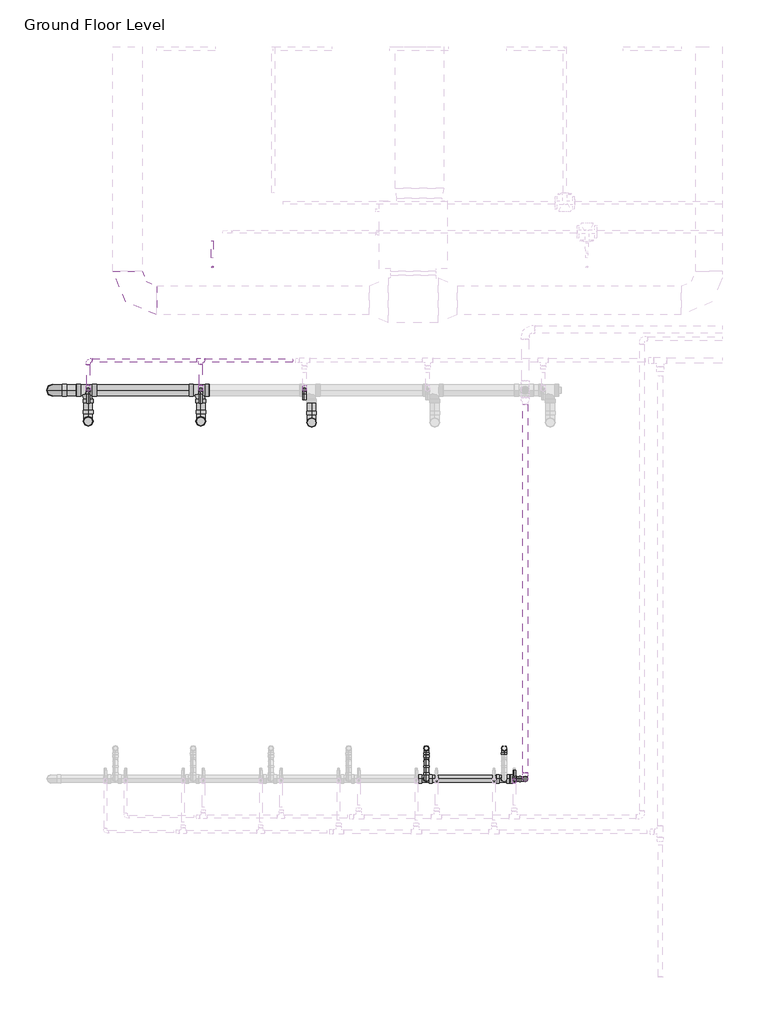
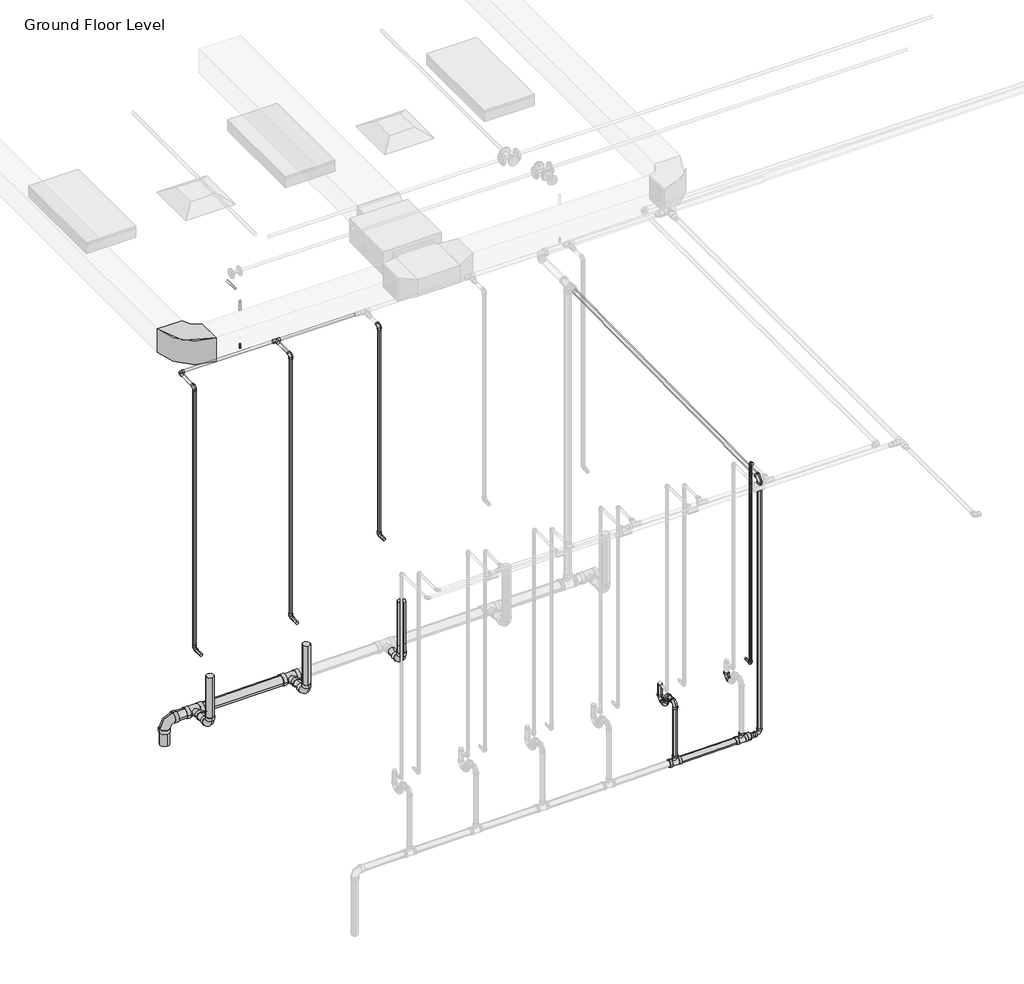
# One storey, part 41 of 68: 33 pipe segments, 26 pipe fittings, 1 duct fitting, 1 fire suppression terminal.
"""IFC4 building model written with IfcOpenShell, lengths in millimetres."""

from ifc_helpers import new_model, si_unit, point, frame, frame_2d, origin, place, context, project, spatial, circle_curve, trimmed, segment, composite_curve, outline, extrude, transform, mapped, element, save
from components import m_rectangular_elbow_radius_1_w_618da153, m_sprinkler_pendent_15_mm_pendent_06fcbd8e, m_bend_pvc_sch_40_dwv_standard_a4b99d37, m_bend_pvc_sch_40_dwv_standard_aa7efa4c, m_bend_pvc_sch_40_dwv_standard_1e7bdcc1, m_bend_pvc_sch_40_dwv_standard_776e50c4, m_reducer_pvc_sch_40_dwv_standard_d6f2da47, m_tee_reducing_sanitary_pvc_sch_40_dwv_standard_b49161a9, m_tee_reducing_sanitary_pvc_sch_40_dwv_standard_21d2848c, standard_b266ab3f, standard_517a5a8d, standard_ecb2b93d, standard_28db8dab, standard_72b35c3b

model = new_model("IFC4")

# Units and contexts
model_context = context("Model", 3, world=origin())
ifc_project = project(units=[si_unit("LENGTHUNIT", "METRE", prefix="MILLI")], contexts=[model_context])

# Site, building, storey
site = spatial("IfcSite", under=ifc_project)
building = spatial("IfcBuilding", under=site)
storey = spatial("IfcBuildingStorey", under=building, Name="Ground Floor Level", Elevation=900.0)

# Duct fitting
placement = place(None, origin())
m_rectangular_elbow_radius_1_w_shape = m_rectangular_elbow_radius_1_w_618da153(model_context)
element("IfcDuctFitting", 1, ObjectType="M_Rectangular Elbow - Radius : 1 W", at=placement, inside=storey, context=model_context, shape_type="MappedRepresentation", body=[
    mapped(m_rectangular_elbow_radius_1_w_shape, transform((-20937.2327605, 14069.8153534, 4075.2881511), x_axis=(0.0, -1.0, 0.0), y_axis=(1.0, 0.0, 0.0), z_axis=(0.0, 0.0, 1.0))),
])

# Fire suppression terminal
m_sprinkler_pendent_15_mm_pendent_shape = m_sprinkler_pendent_15_mm_pendent_06fcbd8e(model_context)
element("IfcFireSuppressionTerminal", 2, ObjectType="M_Sprinkler - Pendent : 15 mm Pendent", at=placement, inside=storey, context=model_context, shape_type="MappedRepresentation", body=[
    mapped(m_sprinkler_pendent_15_mm_pendent_shape, transform((-20063.6803933, 14412.7243649, 3650.0), x_axis=(1.0, 0.0, 0.0), y_axis=(0.0, 1.0, 0.0), z_axis=(0.0, 0.0, 1.0))),
])

# Pipe fittings
m_bend_pvc_sch_40_dwv_standard_shape = m_bend_pvc_sch_40_dwv_standard_a4b99d37(model_context)
element("IfcPipeFitting", 3, ObjectType="M_Bend - PVC - Sch 40 - DWV : Standard", at=placement, inside=storey, context=model_context, shape_type="MappedRepresentation", body=[
    mapped(m_bend_pvc_sch_40_dwv_standard_shape, transform((-21343.0428538, 12823.8178806, 203.6352174), x_axis=(0.0, 0.0, -1.0), y_axis=(0.0, 1.0, 0.0), z_axis=(1.0, 0.0, 0.0))),
])
element("IfcPipeFitting", 4, ObjectType="M_Bend - PVC - Sch 40 - DWV : Standard", at=placement, inside=storey, context=model_context, shape_type="MappedRepresentation", body=[
    mapped(m_bend_pvc_sch_40_dwv_standard_shape, transform((-20183.0428538, 12823.8178806, 215.2352174), x_axis=(0.0, 0.0, -1.0), y_axis=(0.0, 1.0, 0.0), z_axis=(1.0, 0.0, 0.0))),
])
element("IfcPipeFitting", 5, ObjectType="M_Bend - PVC - Sch 40 - DWV : Standard", at=placement, inside=storey, context=model_context, shape_type="MappedRepresentation", body=[
    mapped(m_bend_pvc_sch_40_dwv_standard_shape, transform((-19043.0428538, 12811.6726561, 226.6352174), x_axis=(0.0, 0.0, -1.0), y_axis=(0.0, 1.0, 0.0), z_axis=(1.0, 0.0, 0.0))),
])
m_bend_pvc_sch_40_dwv_standard_2_shape = m_bend_pvc_sch_40_dwv_standard_aa7efa4c(model_context)
element("IfcPipeFitting", 6, ObjectType="M_Bend - PVC - Sch 40 - DWV : Standard", at=placement, inside=storey, context=model_context, shape_type="MappedRepresentation", body=[
    mapped(m_bend_pvc_sch_40_dwv_standard_2_shape, transform((-21707.2327605, 13143.7240477, 200.1933183), x_axis=(0.0, 0.0, 1.0), y_axis=(1.0, 0.0, 0.0), z_axis=(0.0, 1.0, 0.0))),
])
m_bend_pvc_sch_40_dwv_standard_3_shape = m_bend_pvc_sch_40_dwv_standard_1e7bdcc1(model_context)
element("IfcPipeFitting", 7, ObjectType="M_Bend - PVC - Sch 40 - DWV : Standard", at=placement, inside=storey, context=model_context, shape_type="MappedRepresentation", body=[
    mapped(m_bend_pvc_sch_40_dwv_standard_3_shape, transform((-17061.2502, 9458.7835646, 1360.0), x_axis=(0.0, 0.9999500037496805, 0.009999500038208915), y_axis=(0.0, -0.009999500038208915, 0.9999500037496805), z_axis=(1.0, 0.0, 0.0))),
])
element("IfcPipeFitting", 8, ObjectType="M_Bend - PVC - Sch 40 - DWV : Standard", at=placement, inside=storey, context=model_context, shape_type="MappedRepresentation", body=[
    mapped(m_bend_pvc_sch_40_dwv_standard_3_shape, transform((-17861.2502, 9458.7835646, 1360.0), x_axis=(0.0, 0.9999500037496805, 0.009999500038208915), y_axis=(0.0, -0.009999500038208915, 0.9999500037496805), z_axis=(1.0, 0.0, 0.0))),
])
element("IfcPipeFitting", 9, ObjectType="M_Bend - PVC - Sch 40 - DWV : Standard", at=placement, inside=storey, context=model_context, shape_type="MappedRepresentation", body=[
    mapped(m_bend_pvc_sch_40_dwv_standard_3_shape, transform((-17861.2502, 9143.7835646, 1498.2), x_axis=(0.0, -0.9999500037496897, -0.00999950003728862), y_axis=(0.0, 0.00999950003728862, -0.9999500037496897), z_axis=(1.0, 0.0, 0.0))),
])
element("IfcPipeFitting", 10, ObjectType="M_Bend - PVC - Sch 40 - DWV : Standard", at=placement, inside=storey, context=model_context, shape_type="MappedRepresentation", body=[
    mapped(m_bend_pvc_sch_40_dwv_standard_3_shape, transform((-16844.392952, 9143.7835646, 761.4231627), x_axis=(0.9999500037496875, 0.0, 0.009999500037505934), y_axis=(-0.009999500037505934, 0.0, 0.9999500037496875), z_axis=(0.0, -1.0, 0.0))),
])
element("IfcPipeFitting", 11, ObjectType="M_Bend - PVC - Sch 40 - DWV : Standard", at=placement, inside=storey, context=model_context, shape_type="MappedRepresentation", body=[
    mapped(m_bend_pvc_sch_40_dwv_standard_3_shape, transform((-16844.3158637, 9143.8485583, 4010.8006231), x_axis=(0.0, 0.0, 1.0), y_axis=(0.0, 1.0, 0.0), z_axis=(-1.0, 0.0, 0.0))),
])
m_bend_pvc_sch_40_dwv_standard_4_shape = m_bend_pvc_sch_40_dwv_standard_776e50c4(model_context)
element("IfcPipeFitting", 12, ObjectType="M_Bend - PVC - Sch 40 - DWV : Standard", at=placement, inside=storey, context=model_context, shape_type="MappedRepresentation", body=[
    mapped(m_bend_pvc_sch_40_dwv_standard_4_shape, transform((-17861.2502, 9323.7835646, 1358.65), x_axis=(0.0, -0.9999500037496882, -0.009999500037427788), y_axis=(0.0, -0.009999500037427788, 0.9999500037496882), z_axis=(-1.0, 0.0, 0.0))),
])
element("IfcPipeFitting", 13, ObjectType="M_Bend - PVC - Sch 40 - DWV : Standard", at=placement, inside=storey, context=model_context, shape_type="MappedRepresentation", body=[
    mapped(m_bend_pvc_sch_40_dwv_standard_4_shape, transform((-17861.2502, 9323.7835646, 1500.0), x_axis=(0.0, 0.0, 1.0), y_axis=(0.0, -1.0, 0.0), z_axis=(1.0, 0.0, 0.0))),
])
m_reducer_pvc_sch_40_dwv_standard_shape = m_reducer_pvc_sch_40_dwv_standard_d6f2da47(model_context)
element("IfcPipeFitting", 14, ObjectType="M_Reducer - PVC - Sch 40 - DWV : Standard", at=placement, inside=storey, context=model_context, shape_type="MappedRepresentation", body=[
    mapped(m_reducer_pvc_sch_40_dwv_standard_shape, transform((-16997.2385884, 9143.7835646, 759.8947064), x_axis=(0.999950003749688, 0.0, 0.009999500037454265), y_axis=(0.0, 1.0000000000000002, 0.0), z_axis=(-0.009999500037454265, 0.0, 0.999950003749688))),
])
m_tee_reducing_sanitary_pvc_sch_40_dwv_standard_shape = m_tee_reducing_sanitary_pvc_sch_40_dwv_standard_b49161a9(model_context)
element("IfcPipeFitting", 15, ObjectType="M_Tee Reducing Sanitary - PVC - Sch 40 - DWV : Standard", at=placement, inside=storey, context=model_context, shape_type="MappedRepresentation", body=[
    mapped(m_tee_reducing_sanitary_pvc_sch_40_dwv_standard_shape, transform((-21343.0428538, 13143.7240477, 203.6352174), x_axis=(0.9999500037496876, 0.0, 0.009999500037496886), y_axis=(0.0, 1.0, 0.0), z_axis=(-0.009999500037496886, 0.0, 0.9999500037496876))),
])
element("IfcPipeFitting", 16, ObjectType="M_Tee Reducing Sanitary - PVC - Sch 40 - DWV : Standard", at=placement, inside=storey, context=model_context, shape_type="MappedRepresentation", body=[
    mapped(m_tee_reducing_sanitary_pvc_sch_40_dwv_standard_shape, transform((-20183.0428538, 13143.7240477, 215.2352174), x_axis=(0.9999500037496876, 0.0, 0.009999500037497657), y_axis=(0.0, 1.0, 0.0), z_axis=(-0.009999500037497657, 0.0, 0.9999500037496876))),
])
m_tee_reducing_sanitary_pvc_sch_40_dwv_standard_2_shape = m_tee_reducing_sanitary_pvc_sch_40_dwv_standard_21d2848c(model_context)
element("IfcPipeFitting", 17, ObjectType="M_Tee Reducing Sanitary - PVC - Sch 40 - DWV : Standard", at=placement, inside=storey, context=model_context, shape_type="MappedRepresentation", body=[
    mapped(m_tee_reducing_sanitary_pvc_sch_40_dwv_standard_2_shape, transform((-17061.2502, 9143.7835646, 759.2441999), x_axis=(0.9999500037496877, 0.0, 0.009999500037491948), y_axis=(0.009999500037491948, 0.0, -0.9999500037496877), z_axis=(0.0, 1.0, 0.0))),
])
element("IfcPipeFitting", 18, ObjectType="M_Tee Reducing Sanitary - PVC - Sch 40 - DWV : Standard", at=placement, inside=storey, context=model_context, shape_type="MappedRepresentation", body=[
    mapped(m_tee_reducing_sanitary_pvc_sch_40_dwv_standard_2_shape, transform((-17861.2502, 9143.7835646, 751.2441999), x_axis=(0.9999500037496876, 0.0, 0.00999950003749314), y_axis=(0.00999950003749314, 0.0, -0.9999500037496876), z_axis=(0.0, 1.0, 0.0))),
])
standard_shape = standard_b266ab3f(model_context)
element("IfcPipeFitting", 19, ObjectType="M_Elbow - CPVC - Sch 40 : Standard", at=placement, inside=storey, context=model_context, shape_type="MappedRepresentation", body=[
    mapped(standard_shape, transform((-16956.7923674, 9135.2153534, 4250.0), x_axis=(0.0, 0.0, 1.0), y_axis=(0.0, -1.0, 0.0), z_axis=(1.0, 0.0, 0.0))),
])
element("IfcPipeFitting", 20, ObjectType="M_Elbow - CPVC - Sch 40 : Standard", at=placement, inside=storey, context=model_context, shape_type="MappedRepresentation", body=[
    mapped(standard_shape, transform((-16956.7923674, 9135.2153534, 1690.0), x_axis=(0.0, 0.0, -1.0), y_axis=(-0.00142911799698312, 0.9999989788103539, 0.0), z_axis=(0.9999989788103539, 0.00142911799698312, 0.0))),
])
standard_2_shape = standard_517a5a8d(model_context)
element("IfcPipeFitting", 21, ObjectType="M_Elbow - CPVC - Sch 40 : Standard", at=placement, inside=storey, context=model_context, shape_type="MappedRepresentation", body=[
    mapped(standard_2_shape, transform((-21343.0428538, 13149.9865561, 4315.0), x_axis=(0.0, 0.0, 1.0), y_axis=(0.0, 1.0, 0.0), z_axis=(-1.0, 0.0, 0.0))),
])
element("IfcPipeFitting", 22, ObjectType="M_Elbow - CPVC - Sch 40 : Standard", at=placement, inside=storey, context=model_context, shape_type="MappedRepresentation", body=[
    mapped(standard_2_shape, transform((-20183.0428538, 13149.9865561, 4315.0), x_axis=(0.0, 0.0, 1.0), y_axis=(0.0, 1.0, 0.0), z_axis=(-1.0, 0.0, 0.0))),
])
element("IfcPipeFitting", 23, ObjectType="M_Elbow - CPVC - Sch 40 : Standard", at=placement, inside=storey, context=model_context, shape_type="MappedRepresentation", body=[
    mapped(standard_2_shape, transform((-19116.48162, 13149.9865561, 1655.0), x_axis=(0.0, 1.0, 0.0), y_axis=(0.0, 0.0, 1.0), z_axis=(1.0, 0.0, 0.0))),
])
element("IfcPipeFitting", 24, ObjectType="M_Elbow - CPVC - Sch 40 : Standard", at=placement, inside=storey, context=model_context, shape_type="MappedRepresentation", body=[
    mapped(standard_2_shape, transform((-19116.48162, 13149.9865561, 4315.0), x_axis=(0.0, 0.0, 1.0), y_axis=(0.0, 1.0, 0.0), z_axis=(-1.0, 0.0, 0.0))),
])
element("IfcPipeFitting", 25, ObjectType="M_Elbow - CPVC - Sch 40 : Standard", at=placement, inside=storey, context=model_context, shape_type="MappedRepresentation", body=[
    mapped(standard_2_shape, transform((-21343.0428538, 13449.9865561, 4315.0), x_axis=(-1.0, 0.0, 0.0), y_axis=(0.0, -1.0, 0.0), z_axis=(0.0, 0.0, 1.0))),
])
standard_3_shape = standard_ecb2b93d(model_context)
element("IfcPipeFitting", 26, ObjectType="M_Elbow - CPVC - Sch 40 : Standard", at=placement, inside=storey, context=model_context, shape_type="MappedRepresentation", body=[
    mapped(standard_3_shape, transform((-21343.0428538, 13149.9865561, 983.5000035), x_axis=(0.0, 0.9999999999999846, 1.7577295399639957e-07), y_axis=(0.0, -1.7577295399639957e-07, 0.9999999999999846), z_axis=(1.0, 0.0, 0.0))),
])
standard_4_shape = standard_28db8dab(model_context)
element("IfcPipeFitting", 27, ObjectType="M_Elbow - CPVC - Sch 40 : Standard", at=placement, inside=storey, context=model_context, shape_type="MappedRepresentation", body=[
    mapped(standard_4_shape, transform((-20183.0428538, 13149.9865561, 983.4999984), x_axis=(0.0, 0.0, -1.0), y_axis=(0.0, -1.0, 0.0), z_axis=(-1.0, 0.0, 0.0))),
])
standard_5_shape = standard_72b35c3b(model_context)
element("IfcPipeFitting", 28, ObjectType="M_Tee - CPVC - Sch 40 : Standard", at=placement, inside=storey, context=model_context, shape_type="MappedRepresentation", body=[
    mapped(standard_5_shape, transform((-20183.0428538, 13449.9865561, 4315.0), x_axis=(-1.0, 0.0, 0.0), y_axis=(0.0, 1.0, 0.0), z_axis=(0.0, 0.0, -1.0))),
])

# Pipe segments
element("IfcPipeSegment", 29, ObjectType="CPVC", at=placement, inside=storey, context=model_context, shape_type="SweptSolid", body=[
    extrude(outline(composite_curve([segment(trimmed(circle_curve(frame_2d((0.0, 13.335)), 13.335), [point((0.0, 26.67))], [point((13.335, 13.335))], False, "CARTESIAN"), True, "CONTINUOUS"), segment(trimmed(circle_curve(frame_2d((0.0, 13.335)), 13.335), [point((13.335, 13.335))], [point((0.0, 0.0))], False, "CARTESIAN"), True, "CONTINUOUS"), segment(trimmed(circle_curve(frame_2d((0.0, 13.335)), 13.335), [point((0.0, 0.0))], [point((-13.335, 13.335))], False, "CARTESIAN"), True, "CONTINUOUS"), segment(trimmed(circle_curve(frame_2d((0.0, 13.335)), 13.335), [point((-13.335, 13.335))], [point((0.0, 26.67))], False, "CARTESIAN"), True, "CONTINUOUS")], self_intersect=False)), frame((-16970.1778375, 9170.52131, 1690.0), z_axis=(-0.0014291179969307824, 0.999998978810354, 0.0), x_axis=(0.0, 0.0, 1.0)), (0.0, 0.0, 1.0), 64.6750521),
])
element("IfcPipeSegment", 30, ObjectType="CPVC", at=placement, inside=storey, context=model_context, shape_type="SweptSolid", body=[
    extrude(outline(composite_curve([segment(trimmed(circle_curve(frame_2d((-16956.7923674, 9135.2153534)), 13.335), [point((-16970.1273674, 9135.2153534))], [point((-16956.7923674, 9148.5503534))], False, "CARTESIAN"), True, "CONTINUOUS"), segment(trimmed(circle_curve(frame_2d((-16956.7923674, 9135.2153534)), 13.335), [point((-16956.7923674, 9148.5503534))], [point((-16943.4573674, 9135.2153534))], False, "CARTESIAN"), True, "CONTINUOUS"), segment(trimmed(circle_curve(frame_2d((-16956.7923674, 9135.2153534)), 13.335), [point((-16943.4573674, 9135.2153534))], [point((-16956.7923674, 9121.8803534))], False, "CARTESIAN"), True, "CONTINUOUS"), segment(trimmed(circle_curve(frame_2d((-16956.7923674, 9135.2153534)), 13.335), [point((-16956.7923674, 9121.8803534))], [point((-16970.1273674, 9135.2153534))], False, "CARTESIAN"), True, "CONTINUOUS")], self_intersect=False)), frame((0.0, 0.0, 1725.32505), z_axis=(0.0, 0.0, 1.0), x_axis=(1.0, 0.0, 0.0)), (0.0, 0.0, 1.0), 2489.3499),
])
element("IfcPipeSegment", 31, ObjectType="CPVC", at=placement, inside=storey, context=model_context, shape_type="SweptSolid", body=[
    extrude(outline(composite_curve([segment(trimmed(circle_curve(frame_2d((983.4999789, -21343.0428538)), 16.7005), [point((983.4999789, -21326.3423538))], [point((1000.2004789, -21343.0428538))], False, "CARTESIAN"), True, "CONTINUOUS"), segment(trimmed(circle_curve(frame_2d((983.4999789, -21343.0428538)), 16.7005), [point((1000.2004789, -21343.0428538))], [point((983.4999789, -21359.7433538))], False, "CARTESIAN"), True, "CONTINUOUS"), segment(trimmed(circle_curve(frame_2d((983.4999789, -21343.0428538)), 16.7005), [point((983.4999789, -21359.7433538))], [point((966.7994789, -21343.0428538))], False, "CARTESIAN"), True, "CONTINUOUS"), segment(trimmed(circle_curve(frame_2d((983.4999789, -21343.0428538)), 16.7005), [point((966.7994789, -21343.0428538))], [point((983.4999789, -21326.3423538))], False, "CARTESIAN"), True, "CONTINUOUS")], self_intersect=False)), frame((0.0, 13009.9865561, 0.0), z_axis=(0.0, 1.0, 0.0), x_axis=(0.0, 0.0, 1.0)), (0.0, 0.0, 1.0), 96.7374537),
])
element("IfcPipeSegment", 32, ObjectType="CPVC", at=placement, inside=storey, context=model_context, shape_type="SweptSolid", body=[
    extrude(outline(composite_curve([segment(trimmed(circle_curve(frame_2d((4315.0, -21343.0428538)), 16.7005), [point((4315.0, -21326.3423538))], [point((4331.7005, -21343.0428538))], False, "CARTESIAN"), True, "CONTINUOUS"), segment(trimmed(circle_curve(frame_2d((4315.0, -21343.0428538)), 16.7005), [point((4331.7005, -21343.0428538))], [point((4315.0, -21359.7433538))], False, "CARTESIAN"), True, "CONTINUOUS"), segment(trimmed(circle_curve(frame_2d((4315.0, -21343.0428538)), 16.7005), [point((4315.0, -21359.7433538))], [point((4298.2995, -21343.0428538))], False, "CARTESIAN"), True, "CONTINUOUS"), segment(trimmed(circle_curve(frame_2d((4315.0, -21343.0428538)), 16.7005), [point((4298.2995, -21343.0428538))], [point((4315.0, -21326.3423538))], False, "CARTESIAN"), True, "CONTINUOUS")], self_intersect=False)), frame((0.0, 13193.2491061, 0.0), z_axis=(0.0, 1.0, 0.0), x_axis=(0.0, 0.0, 1.0)), (0.0, 0.0, 1.0), 213.4749),
])
element("IfcPipeSegment", 33, ObjectType="CPVC", at=placement, inside=storey, context=model_context, shape_type="SweptSolid", body=[
    extrude(outline(composite_curve([segment(trimmed(circle_curve(frame_2d((-21343.0428538, 13149.9865561)), 16.7005), [point((-21359.7433538, 13149.9865561))], [point((-21343.0428538, 13166.6870561))], False, "CARTESIAN"), True, "CONTINUOUS"), segment(trimmed(circle_curve(frame_2d((-21343.0428538, 13149.9865561)), 16.7005), [point((-21343.0428538, 13166.6870561))], [point((-21326.3423538, 13149.9865561))], False, "CARTESIAN"), True, "CONTINUOUS"), segment(trimmed(circle_curve(frame_2d((-21343.0428538, 13149.9865561)), 16.7005), [point((-21326.3423538, 13149.9865561))], [point((-21343.0428538, 13133.2860561))], False, "CARTESIAN"), True, "CONTINUOUS"), segment(trimmed(circle_curve(frame_2d((-21343.0428538, 13149.9865561)), 16.7005), [point((-21343.0428538, 13133.2860561))], [point((-21359.7433538, 13149.9865561))], False, "CARTESIAN"), True, "CONTINUOUS")], self_intersect=False)), frame((0.0, 0.0, 1026.7625498), z_axis=(0.0, 0.0, 1.0), x_axis=(1.0, 0.0, 0.0)), (0.0, 0.0, 1.0), 3244.9749002),
])
element("IfcPipeSegment", 34, ObjectType="CPVC", at=placement, inside=storey, context=model_context, shape_type="SweptSolid", body=[
    extrude(outline(composite_curve([segment(trimmed(circle_curve(frame_2d((983.4999924, -20183.0428538)), 16.7005), [point((983.4999924, -20199.7433538))], [point((966.7994924, -20183.0428538))], False, "CARTESIAN"), True, "CONTINUOUS"), segment(trimmed(circle_curve(frame_2d((983.4999924, -20183.0428538)), 16.7005), [point((966.7994924, -20183.0428538))], [point((983.4999924, -20166.3423538))], False, "CARTESIAN"), True, "CONTINUOUS"), segment(trimmed(circle_curve(frame_2d((983.4999924, -20183.0428538)), 16.7005), [point((983.4999924, -20166.3423538))], [point((1000.2004924, -20183.0428538))], False, "CARTESIAN"), True, "CONTINUOUS"), segment(trimmed(circle_curve(frame_2d((983.4999924, -20183.0428538)), 16.7005), [point((1000.2004924, -20183.0428538))], [point((983.4999924, -20199.7433538))], False, "CARTESIAN"), True, "CONTINUOUS")], self_intersect=False)), frame((0.0, 13009.9865561, 0.0), z_axis=(0.0, 1.0, 0.0), x_axis=(0.0, 0.0, 1.0)), (0.0, 0.0, 1.0), 96.7374529),
])
element("IfcPipeSegment", 35, ObjectType="CPVC", at=placement, inside=storey, context=model_context, shape_type="SweptSolid", body=[
    extrude(outline(composite_curve([segment(trimmed(circle_curve(frame_2d((-20183.0428538, 13149.9865561)), 16.7005), [point((-20199.7433538, 13149.9865561))], [point((-20183.0428538, 13166.6870561))], False, "CARTESIAN"), True, "CONTINUOUS"), segment(trimmed(circle_curve(frame_2d((-20183.0428538, 13149.9865561)), 16.7005), [point((-20183.0428538, 13166.6870561))], [point((-20166.3423538, 13149.9865561))], False, "CARTESIAN"), True, "CONTINUOUS"), segment(trimmed(circle_curve(frame_2d((-20183.0428538, 13149.9865561)), 16.7005), [point((-20166.3423538, 13149.9865561))], [point((-20183.0428538, 13133.2860561))], False, "CARTESIAN"), True, "CONTINUOUS"), segment(trimmed(circle_curve(frame_2d((-20183.0428538, 13149.9865561)), 16.7005), [point((-20183.0428538, 13133.2860561))], [point((-20199.7433538, 13149.9865561))], False, "CARTESIAN"), True, "CONTINUOUS")], self_intersect=False)), frame((0.0, 0.0, 1026.7625455), z_axis=(0.0, 0.0, 1.0), x_axis=(1.0, 0.0, 0.0)), (0.0, 0.0, 1.0), 3244.9749045),
])
element("IfcPipeSegment", 36, ObjectType="CPVC", at=placement, inside=storey, context=model_context, shape_type="SweptSolid", body=[
    extrude(outline(composite_curve([segment(trimmed(circle_curve(frame_2d((1655.0, -19116.48162)), 16.7005), [point((1655.0, -19099.78112))], [point((1671.7005, -19116.48162))], False, "CARTESIAN"), True, "CONTINUOUS"), segment(trimmed(circle_curve(frame_2d((1655.0, -19116.48162)), 16.7005), [point((1671.7005, -19116.48162))], [point((1655.0, -19133.18212))], False, "CARTESIAN"), True, "CONTINUOUS"), segment(trimmed(circle_curve(frame_2d((1655.0, -19116.48162)), 16.7005), [point((1655.0, -19133.18212))], [point((1638.2995, -19116.48162))], False, "CARTESIAN"), True, "CONTINUOUS"), segment(trimmed(circle_curve(frame_2d((1655.0, -19116.48162)), 16.7005), [point((1638.2995, -19116.48162))], [point((1655.0, -19099.78112))], False, "CARTESIAN"), True, "CONTINUOUS")], self_intersect=False)), frame((0.0, 13045.2153534, 0.0), z_axis=(0.0, 1.0, 0.0), x_axis=(0.0, 0.0, 1.0)), (0.0, 0.0, 1.0), 61.5086528),
])
element("IfcPipeSegment", 37, ObjectType="CPVC", at=placement, inside=storey, context=model_context, shape_type="SweptSolid", body=[
    extrude(outline(composite_curve([segment(trimmed(circle_curve(frame_2d((-19116.48162, 13149.9865561)), 16.7005), [point((-19133.18212, 13149.9865561))], [point((-19116.48162, 13166.6870561))], False, "CARTESIAN"), True, "CONTINUOUS"), segment(trimmed(circle_curve(frame_2d((-19116.48162, 13149.9865561)), 16.7005), [point((-19116.48162, 13166.6870561))], [point((-19099.78112, 13149.9865561))], False, "CARTESIAN"), True, "CONTINUOUS"), segment(trimmed(circle_curve(frame_2d((-19116.48162, 13149.9865561)), 16.7005), [point((-19099.78112, 13149.9865561))], [point((-19116.48162, 13133.2860561))], False, "CARTESIAN"), True, "CONTINUOUS"), segment(trimmed(circle_curve(frame_2d((-19116.48162, 13149.9865561)), 16.7005), [point((-19116.48162, 13133.2860561))], [point((-19133.18212, 13149.9865561))], False, "CARTESIAN"), True, "CONTINUOUS")], self_intersect=False)), frame((0.0, 0.0, 1698.26255), z_axis=(0.0, 0.0, 1.0), x_axis=(1.0, 0.0, 0.0)), (0.0, 0.0, 1.0), 2573.4749),
])
element("IfcPipeSegment", 38, ObjectType="CPVC", at=placement, inside=storey, context=model_context, shape_type="SweptSolid", body=[
    extrude(outline(composite_curve([segment(trimmed(circle_curve(frame_2d((13449.9865561, 4315.0)), 16.7005), [point((13433.2860561, 4315.0))], [point((13449.9865561, 4331.7005))], False, "CARTESIAN"), True, "CONTINUOUS"), segment(trimmed(circle_curve(frame_2d((13449.9865561, 4315.0)), 16.7005), [point((13449.9865561, 4331.7005))], [point((13466.6870561, 4315.0))], False, "CARTESIAN"), True, "CONTINUOUS"), segment(trimmed(circle_curve(frame_2d((13449.9865561, 4315.0)), 16.7005), [point((13466.6870561, 4315.0))], [point((13449.9865561, 4298.2995))], False, "CARTESIAN"), True, "CONTINUOUS"), segment(trimmed(circle_curve(frame_2d((13449.9865561, 4315.0)), 16.7005), [point((13449.9865561, 4298.2995))], [point((13433.2860561, 4315.0))], False, "CARTESIAN"), True, "CONTINUOUS")], self_intersect=False)), frame((-21299.7803038, 0.0, 0.0), z_axis=(1.0, 0.0, 0.0), x_axis=(0.0, 1.0, 0.0)), (0.0, 0.0, 1.0), 1077.03725),
])
element("IfcPipeSegment", 39, ObjectType="CPVC", at=placement, inside=storey, context=model_context, shape_type="SweptSolid", body=[
    extrude(outline(composite_curve([segment(trimmed(circle_curve(frame_2d((4315.0, -20183.0428538)), 16.7005), [point((4315.0, -20166.3423538))], [point((4331.7005, -20183.0428538))], False, "CARTESIAN"), True, "CONTINUOUS"), segment(trimmed(circle_curve(frame_2d((4315.0, -20183.0428538)), 16.7005), [point((4331.7005, -20183.0428538))], [point((4315.0, -20199.7433538))], False, "CARTESIAN"), True, "CONTINUOUS"), segment(trimmed(circle_curve(frame_2d((4315.0, -20183.0428538)), 16.7005), [point((4315.0, -20199.7433538))], [point((4298.2995, -20183.0428538))], False, "CARTESIAN"), True, "CONTINUOUS"), segment(trimmed(circle_curve(frame_2d((4315.0, -20183.0428538)), 16.7005), [point((4298.2995, -20183.0428538))], [point((4315.0, -20166.3423538))], False, "CARTESIAN"), True, "CONTINUOUS")], self_intersect=False)), frame((0.0, 13193.2491061, 0.0), z_axis=(0.0, 1.0, 0.0), x_axis=(0.0, 0.0, 1.0)), (0.0, 0.0, 1.0), 217.03725),
])
element("IfcPipeSegment", 40, ObjectType="CPVC", at=placement, inside=storey, context=model_context, shape_type="SweptSolid", body=[
    extrude(outline(composite_curve([segment(trimmed(circle_curve(frame_2d((13449.9865561, 4315.0)), 16.7005), [point((13433.2860561, 4315.0))], [point((13449.9865561, 4331.7005))], False, "CARTESIAN"), True, "CONTINUOUS"), segment(trimmed(circle_curve(frame_2d((13449.9865561, 4315.0)), 16.7005), [point((13449.9865561, 4331.7005))], [point((13466.6870561, 4315.0))], False, "CARTESIAN"), True, "CONTINUOUS"), segment(trimmed(circle_curve(frame_2d((13449.9865561, 4315.0)), 16.7005), [point((13466.6870561, 4315.0))], [point((13449.9865561, 4298.2995))], False, "CARTESIAN"), True, "CONTINUOUS"), segment(trimmed(circle_curve(frame_2d((13449.9865561, 4315.0)), 16.7005), [point((13449.9865561, 4298.2995))], [point((13433.2860561, 4315.0))], False, "CARTESIAN"), True, "CONTINUOUS")], self_intersect=False)), frame((-20143.3426538, 0.0, 0.0), z_axis=(1.0, 0.0, 0.0), x_axis=(0.0, 1.0, 0.0)), (0.0, 0.0, 1.0), 906.7671588),
])
element("IfcPipeSegment", 41, ObjectType="PVC - DWV", at=placement, inside=storey, context=model_context, shape_type="SweptSolid", body=[
    extrude(outline(composite_curve([segment(trimmed(circle_curve(frame_2d((-21343.0428538, 12823.8178806)), 44.45), [point((-21298.5928538, 12823.8178806))], [point((-21343.0428538, 12779.3678806))], False, "CARTESIAN"), True, "CONTINUOUS"), segment(trimmed(circle_curve(frame_2d((-21343.0428538, 12823.8178806)), 44.45), [point((-21343.0428538, 12779.3678806))], [point((-21387.4928538, 12823.8178806))], False, "CARTESIAN"), True, "CONTINUOUS"), segment(trimmed(circle_curve(frame_2d((-21343.0428538, 12823.8178806)), 44.45), [point((-21387.4928538, 12823.8178806))], [point((-21343.0428538, 12868.2678806))], False, "CARTESIAN"), True, "CONTINUOUS"), segment(trimmed(circle_curve(frame_2d((-21343.0428538, 12823.8178806)), 44.45), [point((-21343.0428538, 12868.2678806))], [point((-21298.5928538, 12823.8178806))], False, "CARTESIAN"), True, "CONTINUOUS")], self_intersect=False)), frame((0.0, 0.0, 319.5354174), z_axis=(0.0, 0.0, 1.0), x_axis=(1.0, 0.0, 0.0)), (0.0, 0.0, 1.0), 511.1329592),
])
element("IfcPipeSegment", 42, ObjectType="PVC - DWV", at=placement, inside=storey, context=model_context, shape_type="SweptSolid", body=[
    extrude(outline(composite_curve([segment(trimmed(circle_curve(frame_2d((203.6352174, -21343.0428538)), 44.45), [point((203.6352174, -21298.5928538))], [point((248.0852174, -21343.0428538))], False, "CARTESIAN"), True, "CONTINUOUS"), segment(trimmed(circle_curve(frame_2d((203.6352174, -21343.0428538)), 44.45), [point((248.0852174, -21343.0428538))], [point((203.6352174, -21387.4928538))], False, "CARTESIAN"), True, "CONTINUOUS"), segment(trimmed(circle_curve(frame_2d((203.6352174, -21343.0428538)), 44.45), [point((203.6352174, -21387.4928538))], [point((159.1852174, -21343.0428538))], False, "CARTESIAN"), True, "CONTINUOUS"), segment(trimmed(circle_curve(frame_2d((203.6352174, -21343.0428538)), 44.45), [point((159.1852174, -21343.0428538))], [point((203.6352174, -21298.5928538))], False, "CARTESIAN"), True, "CONTINUOUS")], self_intersect=False)), frame((0.0, 12939.7180806, 0.0), z_axis=(0.0, 1.0, 0.0), x_axis=(0.0, 0.0, 1.0)), (0.0, 0.0, 1.0), 75.4057671),
])
element("IfcPipeSegment", 43, ObjectType="PVC - DWV", at=placement, inside=storey, context=model_context, shape_type="SweptSolid", body=[
    extrude(outline(composite_curve([segment(trimmed(circle_curve(frame_2d((0.0, -57.15)), 57.15), [point((0.0, 0.0))], [point((57.15, -57.15))], False, "CARTESIAN"), True, "CONTINUOUS"), segment(trimmed(circle_curve(frame_2d((0.0, -57.15)), 57.15), [point((57.15, -57.15))], [point((0.0, -114.3))], False, "CARTESIAN"), True, "CONTINUOUS"), segment(trimmed(circle_curve(frame_2d((0.0, -57.15)), 57.15), [point((0.0, -114.3))], [point((-57.15, -57.15))], False, "CARTESIAN"), True, "CONTINUOUS"), segment(trimmed(circle_curve(frame_2d((0.0, -57.15)), 57.15), [point((-57.15, -57.15))], [point((0.0, 0.0))], False, "CARTESIAN"), True, "CONTINUOUS")], self_intersect=False)), frame((-21564.3649037, 13200.8740477, 201.6219969), z_axis=(0.9999500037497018, 0.0, 0.00999950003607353), x_axis=(0.00999950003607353, 0.0, -0.9999500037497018)), (0.0, 0.0, 1.0), 100.6811159),
])
element("IfcPipeSegment", 44, ObjectType="PVC - DWV", at=placement, inside=storey, context=model_context, shape_type="SweptSolid", body=[
    extrude(outline(composite_curve([segment(trimmed(circle_curve(frame_2d((-20183.0428538, 12823.8178806)), 44.45), [point((-20138.5928538, 12823.8178806))], [point((-20183.0428538, 12779.3678806))], False, "CARTESIAN"), True, "CONTINUOUS"), segment(trimmed(circle_curve(frame_2d((-20183.0428538, 12823.8178806)), 44.45), [point((-20183.0428538, 12779.3678806))], [point((-20227.4928538, 12823.8178806))], False, "CARTESIAN"), True, "CONTINUOUS"), segment(trimmed(circle_curve(frame_2d((-20183.0428538, 12823.8178806)), 44.45), [point((-20227.4928538, 12823.8178806))], [point((-20183.0428538, 12868.2678806))], False, "CARTESIAN"), True, "CONTINUOUS"), segment(trimmed(circle_curve(frame_2d((-20183.0428538, 12823.8178806)), 44.45), [point((-20183.0428538, 12868.2678806))], [point((-20138.5928538, 12823.8178806))], False, "CARTESIAN"), True, "CONTINUOUS")], self_intersect=False)), frame((0.0, 0.0, 331.1354174), z_axis=(0.0, 0.0, 1.0), x_axis=(1.0, 0.0, 0.0)), (0.0, 0.0, 1.0), 499.5329592),
])
element("IfcPipeSegment", 45, ObjectType="PVC - DWV", at=placement, inside=storey, context=model_context, shape_type="SweptSolid", body=[
    extrude(outline(composite_curve([segment(trimmed(circle_curve(frame_2d((215.2352174, -20183.0428538)), 44.45), [point((215.2352174, -20138.5928538))], [point((259.6852174, -20183.0428538))], False, "CARTESIAN"), True, "CONTINUOUS"), segment(trimmed(circle_curve(frame_2d((215.2352174, -20183.0428538)), 44.45), [point((259.6852174, -20183.0428538))], [point((215.2352174, -20227.4928538))], False, "CARTESIAN"), True, "CONTINUOUS"), segment(trimmed(circle_curve(frame_2d((215.2352174, -20183.0428538)), 44.45), [point((215.2352174, -20227.4928538))], [point((170.7852174, -20183.0428538))], False, "CARTESIAN"), True, "CONTINUOUS"), segment(trimmed(circle_curve(frame_2d((215.2352174, -20183.0428538)), 44.45), [point((170.7852174, -20183.0428538))], [point((215.2352174, -20138.5928538))], False, "CARTESIAN"), True, "CONTINUOUS")], self_intersect=False)), frame((0.0, 12939.7180806, 0.0), z_axis=(0.0, 1.0, 0.0), x_axis=(0.0, 0.0, 1.0)), (0.0, 0.0, 1.0), 75.4057671),
])
element("IfcPipeSegment", 46, ObjectType="PVC - DWV", at=placement, inside=storey, context=model_context, shape_type="SweptSolid", body=[
    extrude(outline(composite_curve([segment(trimmed(circle_curve(frame_2d((0.0, -57.15)), 57.15), [point((0.0, 0.0))], [point((57.1500001, -57.15))], False, "CARTESIAN"), True, "CONTINUOUS"), segment(trimmed(circle_curve(frame_2d((0.0, -57.15)), 57.15), [point((57.1500001, -57.15))], [point((0.0, -114.3))], False, "CARTESIAN"), True, "CONTINUOUS"), segment(trimmed(circle_curve(frame_2d((0.0, -57.15)), 57.15), [point((0.0, -114.3))], [point((-57.15, -57.15))], False, "CARTESIAN"), True, "CONTINUOUS"), segment(trimmed(circle_curve(frame_2d((0.0, -57.15)), 57.15), [point((-57.15, -57.15))], [point((0.0, 0.0))], False, "CARTESIAN"), True, "CONTINUOUS")], self_intersect=False)), frame((-21254.1472985, 13200.8740477, 204.524173), z_axis=(0.9999500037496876, 0.0, 0.009999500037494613), x_axis=(0.009999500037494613, 0.0, -0.9999500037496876)), (0.0, 0.0, 1.0), 950.5079986),
])
element("IfcPipeSegment", 47, ObjectType="PVC - DWV", at=placement, inside=storey, context=model_context, shape_type="SweptSolid", body=[
    extrude(outline(composite_curve([segment(trimmed(circle_curve(frame_2d((-19043.0428538, 12811.6726561)), 44.45), [point((-18998.5928538, 12811.6726561))], [point((-19043.0428538, 12767.2226561))], False, "CARTESIAN"), True, "CONTINUOUS"), segment(trimmed(circle_curve(frame_2d((-19043.0428538, 12811.6726561)), 44.45), [point((-19043.0428538, 12767.2226561))], [point((-19087.4928538, 12811.6726561))], False, "CARTESIAN"), True, "CONTINUOUS"), segment(trimmed(circle_curve(frame_2d((-19043.0428538, 12811.6726561)), 44.45), [point((-19087.4928538, 12811.6726561))], [point((-19043.0428538, 12856.1226561))], False, "CARTESIAN"), True, "CONTINUOUS"), segment(trimmed(circle_curve(frame_2d((-19043.0428538, 12811.6726561)), 44.45), [point((-19043.0428538, 12856.1226561))], [point((-18998.5928538, 12811.6726561))], False, "CARTESIAN"), True, "CONTINUOUS")], self_intersect=False)), frame((0.0, 0.0, 342.5354174), z_axis=(0.0, 0.0, 1.0), x_axis=(1.0, 0.0, 0.0)), (0.0, 0.0, 1.0), 647.4645826),
])
element("IfcPipeSegment", 48, ObjectType="PVC - DWV", at=placement, inside=storey, context=model_context, shape_type="SweptSolid", body=[
    extrude(outline(composite_curve([segment(trimmed(circle_curve(frame_2d((226.6352174, -19043.0428538)), 44.45), [point((226.6352174, -18998.5928538))], [point((271.0852174, -19043.0428538))], False, "CARTESIAN"), True, "CONTINUOUS"), segment(trimmed(circle_curve(frame_2d((226.6352174, -19043.0428538)), 44.45), [point((271.0852174, -19043.0428538))], [point((226.6352174, -19087.4928538))], False, "CARTESIAN"), True, "CONTINUOUS"), segment(trimmed(circle_curve(frame_2d((226.6352174, -19043.0428538)), 44.45), [point((226.6352174, -19087.4928538))], [point((182.1852174, -19043.0428538))], False, "CARTESIAN"), True, "CONTINUOUS"), segment(trimmed(circle_curve(frame_2d((226.6352174, -19043.0428538)), 44.45), [point((182.1852174, -19043.0428538))], [point((226.6352174, -18998.5928538))], False, "CARTESIAN"), True, "CONTINUOUS")], self_intersect=False)), frame((0.0, 12927.5728561, 0.0), z_axis=(0.0, 1.0, 0.0), x_axis=(0.0, 0.0, 1.0)), (0.0, 0.0, 1.0), 87.5509916),
])
element("IfcPipeSegment", 49, ObjectType="PVC - DWV", at=placement, inside=storey, context=model_context, shape_type="SweptSolid", body=[
    extrude(outline(composite_curve([segment(trimmed(circle_curve(frame_2d((-21707.2327605, 13143.7240477)), 57.15), [point((-21650.0827605, 13143.7240477))], [point((-21707.2327605, 13086.5740477))], False, "CARTESIAN"), True, "CONTINUOUS"), segment(trimmed(circle_curve(frame_2d((-21707.2327605, 13143.7240477)), 57.15), [point((-21707.2327605, 13086.5740477))], [point((-21764.3827605, 13143.7240477))], False, "CARTESIAN"), True, "CONTINUOUS"), segment(trimmed(circle_curve(frame_2d((-21707.2327605, 13143.7240477)), 57.15), [point((-21764.3827605, 13143.7240477))], [point((-21707.2327605, 13200.8740477))], False, "CARTESIAN"), True, "CONTINUOUS"), segment(trimmed(circle_curve(frame_2d((-21707.2327605, 13143.7240477)), 57.15), [point((-21707.2327605, 13200.8740477))], [point((-21650.0827605, 13143.7240477))], False, "CARTESIAN"), True, "CONTINUOUS")], self_intersect=False)), frame((0.0, 0.0, -100.0), z_axis=(0.0, 0.0, 1.0), x_axis=(1.0, 0.0, 0.0)), (0.0, 0.0, 1.0), 157.3183183),
])
element("IfcPipeSegment", 50, ObjectType="PVC - DWV", at=placement, inside=storey, context=model_context, shape_type="SweptSolid", body=[
    extrude(outline(composite_curve([segment(trimmed(circle_curve(frame_2d((-17861.2502, 9458.7835646)), 24.13), [point((-17885.3802, 9458.7835646))], [point((-17861.2502, 9482.9135646))], False, "CARTESIAN"), True, "CONTINUOUS"), segment(trimmed(circle_curve(frame_2d((-17861.2502, 9458.7835646)), 24.13), [point((-17861.2502, 9482.9135646))], [point((-17837.1202, 9458.7835646))], False, "CARTESIAN"), True, "CONTINUOUS"), segment(trimmed(circle_curve(frame_2d((-17861.2502, 9458.7835646)), 24.13), [point((-17837.1202, 9458.7835646))], [point((-17861.2502, 9434.6535646))], False, "CARTESIAN"), True, "CONTINUOUS"), segment(trimmed(circle_curve(frame_2d((-17861.2502, 9458.7835646)), 24.13), [point((-17861.2502, 9434.6535646))], [point((-17885.3802, 9458.7835646))], False, "CARTESIAN"), True, "CONTINUOUS")], self_intersect=False)), frame((0.0, 0.0, 1421.8998), z_axis=(0.0, 0.0, 1.0), x_axis=(1.0, 0.0, 0.0)), (0.0, 0.0, 1.0), 128.1002),
])
element("IfcPipeSegment", 51, ObjectType="PVC - DWV", at=placement, inside=storey, context=model_context, shape_type="SweptSolid", body=[
    extrude(outline(composite_curve([segment(trimmed(circle_curve(frame_2d((0.0, -24.13)), 24.13), [point((-24.13, -24.13))], [point((0.0, 0.0))], False, "CARTESIAN"), True, "CONTINUOUS"), segment(trimmed(circle_curve(frame_2d((0.0, -24.13)), 24.13), [point((0.0, 0.0))], [point((24.13, -24.13))], False, "CARTESIAN"), True, "CONTINUOUS"), segment(trimmed(circle_curve(frame_2d((0.0, -24.13)), 24.13), [point((24.13, -24.13))], [point((0.0, -48.2599999))], False, "CARTESIAN"), True, "CONTINUOUS"), segment(trimmed(circle_curve(frame_2d((0.0, -24.13)), 24.13), [point((0.0, -48.2599999))], [point((-24.13, -24.13))], False, "CARTESIAN"), True, "CONTINUOUS")], self_intersect=False)), frame((-17861.2502, 9385.9215577, 1335.1401735), z_axis=(0.0, 0.9999500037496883, 0.009999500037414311), x_axis=(1.0, 0.0, 0.0)), (0.0, 0.0, 1.0), 11.2071498),
])
element("IfcPipeSegment", 52, ObjectType="PVC - DWV", at=placement, inside=storey, context=model_context, shape_type="SweptSolid", body=[
    extrude(outline(composite_curve([segment(trimmed(circle_curve(frame_2d((-17861.2502, 9323.7835646)), 24.13), [point((-17885.3802, 9323.7835646))], [point((-17861.2502, 9347.9135646))], False, "CARTESIAN"), True, "CONTINUOUS"), segment(trimmed(circle_curve(frame_2d((-17861.2502, 9323.7835646)), 24.13), [point((-17861.2502, 9347.9135646))], [point((-17837.1202, 9323.7835646))], False, "CARTESIAN"), True, "CONTINUOUS"), segment(trimmed(circle_curve(frame_2d((-17861.2502, 9323.7835646)), 24.13), [point((-17837.1202, 9323.7835646))], [point((-17861.2502, 9299.6535646))], False, "CARTESIAN"), True, "CONTINUOUS"), segment(trimmed(circle_curve(frame_2d((-17861.2502, 9323.7835646)), 24.13), [point((-17861.2502, 9299.6535646))], [point((-17885.3802, 9323.7835646))], False, "CARTESIAN"), True, "CONTINUOUS")], self_intersect=False)), frame((0.0, 0.0, 1420.5498), z_axis=(0.0, 0.0, 1.0), x_axis=(1.0, 0.0, 0.0)), (0.0, 0.0, 1.0), 17.5504),
])
element("IfcPipeSegment", 53, ObjectType="PVC - DWV", at=placement, inside=storey, context=model_context, shape_type="SweptSolid", body=[
    extrude(outline(composite_curve([segment(trimmed(circle_curve(frame_2d((0.0, -24.13)), 24.13), [point((-24.13, -24.13))], [point((0.0, 0.0))], False, "CARTESIAN"), True, "CONTINUOUS"), segment(trimmed(circle_curve(frame_2d((0.0, -24.13)), 24.13), [point((0.0, 0.0))], [point((24.13, -24.13))], False, "CARTESIAN"), True, "CONTINUOUS"), segment(trimmed(circle_curve(frame_2d((0.0, -24.13)), 24.13), [point((24.13, -24.13))], [point((0.0, -48.2599999))], False, "CARTESIAN"), True, "CONTINUOUS"), segment(trimmed(circle_curve(frame_2d((0.0, -24.13)), 24.13), [point((0.0, -48.2599999))], [point((-24.13, -24.13))], False, "CARTESIAN"), True, "CONTINUOUS")], self_intersect=False)), frame((-17861.2502, 9205.9215577, 1474.6901735), z_axis=(0.0, 0.9999500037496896, 0.009999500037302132), x_axis=(1.0, 0.0, 0.0)), (0.0, 0.0, 1.0), 56.2093998),
])
element("IfcPipeSegment", 54, ObjectType="PVC - DWV", at=placement, inside=storey, context=model_context, shape_type="SweptSolid", body=[
    extrude(outline(composite_curve([segment(trimmed(circle_curve(frame_2d((-17861.2502, 9143.7835646)), 24.13), [point((-17885.3802, 9143.7835646))], [point((-17861.2502, 9167.9135646))], False, "CARTESIAN"), True, "CONTINUOUS"), segment(trimmed(circle_curve(frame_2d((-17861.2502, 9143.7835646)), 24.13), [point((-17861.2502, 9167.9135646))], [point((-17837.1202, 9143.7835646))], False, "CARTESIAN"), True, "CONTINUOUS"), segment(trimmed(circle_curve(frame_2d((-17861.2502, 9143.7835646)), 24.13), [point((-17837.1202, 9143.7835646))], [point((-17861.2502, 9119.6535646))], False, "CARTESIAN"), True, "CONTINUOUS"), segment(trimmed(circle_curve(frame_2d((-17861.2502, 9143.7835646)), 24.13), [point((-17861.2502, 9119.6535646))], [point((-17885.3802, 9143.7835646))], False, "CARTESIAN"), True, "CONTINUOUS")], self_intersect=False)), frame((0.0, 0.0, 832.0916561), z_axis=(0.0, 0.0, 1.0), x_axis=(1.0, 0.0, 0.0)), (0.0, 0.0, 1.0), 604.2085439),
])
element("IfcPipeSegment", 55, ObjectType="PVC - DWV", at=placement, inside=storey, context=model_context, shape_type="SweptSolid", body=[
    extrude(outline(composite_curve([segment(trimmed(circle_curve(frame_2d((0.0, -36.5125)), 36.5125), [point((0.0, 0.0))], [point((36.5125, -36.5125))], False, "CARTESIAN"), True, "CONTINUOUS"), segment(trimmed(circle_curve(frame_2d((0.0, -36.5125)), 36.5125), [point((36.5125, -36.5125))], [point((0.0, -73.025))], False, "CARTESIAN"), True, "CONTINUOUS"), segment(trimmed(circle_curve(frame_2d((0.0, -36.5125)), 36.5125), [point((0.0, -73.025))], [point((-36.5125001, -36.5125))], False, "CARTESIAN"), True, "CONTINUOUS"), segment(trimmed(circle_curve(frame_2d((0.0, -36.5125)), 36.5125), [point((-36.5125001, -36.5125))], [point((0.0, 0.0))], False, "CARTESIAN"), True, "CONTINUOUS")], self_intersect=False)), frame((-17801.7674307, 9180.2960646, 751.8390275), z_axis=(0.9999500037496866, 0.0, 0.00999950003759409), x_axis=(0.00999950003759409, 0.0, -0.9999500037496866)), (0.0, 0.0, 1.0), 661.4911369),
])
element("IfcPipeSegment", 56, ObjectType="PVC - DWV", at=placement, inside=storey, context=model_context, shape_type="SweptSolid", body=[
    extrude(outline(composite_curve([segment(trimmed(circle_curve(frame_2d((0.0, 36.5125)), 36.5125), [point((0.0, 0.0))], [point((-36.5125, 36.5125))], False, "CARTESIAN"), True, "CONTINUOUS"), segment(trimmed(circle_curve(frame_2d((0.0, 36.5125)), 36.5125), [point((-36.5125, 36.5125))], [point((0.0, 73.025))], False, "CARTESIAN"), True, "CONTINUOUS"), segment(trimmed(circle_curve(frame_2d((0.0, 36.5125)), 36.5125), [point((0.0, 73.025))], [point((36.5124999, 36.5125))], False, "CARTESIAN"), True, "CONTINUOUS"), segment(trimmed(circle_curve(frame_2d((0.0, 36.5125)), 36.5125), [point((36.5124999, 36.5125))], [point((0.0, 0.0))], False, "CARTESIAN"), True, "CONTINUOUS")], self_intersect=False)), frame((-17001.7674307, 9107.2710646, 759.8390275), z_axis=(0.9999244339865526, 0.0, 0.012293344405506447), x_axis=(0.012293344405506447, 0.0, -0.9999244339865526)), (0.0, 0.0, 1.0), 4.5291845),
])
element("IfcPipeSegment", 57, ObjectType="PVC - DWV", at=placement, inside=storey, context=model_context, shape_type="SweptSolid", body=[
    extrude(outline(composite_curve([segment(trimmed(circle_curve(frame_2d((0.0, 24.13)), 24.13), [point((0.0, 0.0))], [point((-24.13, 24.13))], False, "CARTESIAN"), True, "CONTINUOUS"), segment(trimmed(circle_curve(frame_2d((0.0, 24.13)), 24.13), [point((-24.13, 24.13))], [point((0.0, 48.26))], False, "CARTESIAN"), True, "CONTINUOUS"), segment(trimmed(circle_curve(frame_2d((0.0, 24.13)), 24.13), [point((0.0, 48.26))], [point((24.13, 24.13))], False, "CARTESIAN"), True, "CONTINUOUS"), segment(trimmed(circle_curve(frame_2d((0.0, 24.13)), 24.13), [point((24.13, 24.13))], [point((0.0, 0.0))], False, "CARTESIAN"), True, "CONTINUOUS")], self_intersect=False)), frame((-16929.7958667, 9119.6535646, 760.5691336), z_axis=(0.9999500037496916, 0.0, 0.00999950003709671), x_axis=(0.00999950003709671, 0.0, -0.9999500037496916)), (0.0, 0.0, 1.0), 23.5073848),
])
element("IfcPipeSegment", 58, ObjectType="PVC - DWV", at=placement, inside=storey, context=model_context, shape_type="SweptSolid", body=[
    extrude(outline(composite_curve([segment(trimmed(circle_curve(frame_2d((0.0, 24.13)), 24.13), [point((-24.13, 24.13))], [point((0.0, 48.26))], False, "CARTESIAN"), True, "CONTINUOUS"), segment(trimmed(circle_curve(frame_2d((0.0, 24.13)), 24.13), [point((0.0, 48.26))], [point((24.13, 24.13))], False, "CARTESIAN"), True, "CONTINUOUS"), segment(trimmed(circle_curve(frame_2d((0.0, 24.13)), 24.13), [point((24.13, 24.13))], [point((0.0, 0.0))], False, "CARTESIAN"), True, "CONTINUOUS"), segment(trimmed(circle_curve(frame_2d((0.0, 24.13)), 24.13), [point((0.0, 0.0))], [point((-24.13, 24.13))], False, "CARTESIAN"), True, "CONTINUOUS")], self_intersect=False)), frame((-16844.2969712, 9119.7374489, 823.3228169), z_axis=(-6.044465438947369e-06, -6.043861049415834e-06, 0.9999999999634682), x_axis=(0.9999999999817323, -3.6532554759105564e-11, 6.044465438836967e-06)), (0.0, 0.0, 1.0), 3125.5778605),
])
element("IfcPipeSegment", 59, ObjectType="PVC - DWV", at=placement, inside=storey, context=model_context, shape_type="SweptSolid", body=[
    extrude(outline(composite_curve([segment(trimmed(circle_curve(frame_2d((0.0, 24.13)), 24.13), [point((24.13, 24.13))], [point((0.0, 0.0))], False, "CARTESIAN"), True, "CONTINUOUS"), segment(trimmed(circle_curve(frame_2d((0.0, 24.13)), 24.13), [point((0.0, 0.0))], [point((-24.13, 24.13))], False, "CARTESIAN"), True, "CONTINUOUS"), segment(trimmed(circle_curve(frame_2d((0.0, 24.13)), 24.13), [point((-24.13, 24.13))], [point((0.0, 48.26))], False, "CARTESIAN"), True, "CONTINUOUS"), segment(trimmed(circle_curve(frame_2d((0.0, 24.13)), 24.13), [point((0.0, 48.26))], [point((24.13, 24.13))], False, "CARTESIAN"), True, "CONTINUOUS")], self_intersect=False)), frame((-16844.3158637, 9205.5039756, 4035.5483838), z_axis=(0.0, 0.9999500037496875, 0.009999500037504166), x_axis=(1.0, 0.0, 0.0)), (0.0, 0.0, 1.0), 3795.0796333),
])
element("IfcPipeSegment", 60, ObjectType="Steel flanged", at=placement, inside=storey, context=model_context, shape_type="SweptSolid", body=[
    extrude(outline(composite_curve([segment(trimmed(circle_curve(frame_2d((-20063.6803933, 14412.7243649)), 10.668), [point((-20074.3483933, 14412.7243649))], [point((-20063.6803933, 14423.3923649))], False, "CARTESIAN"), True, "CONTINUOUS"), segment(trimmed(circle_curve(frame_2d((-20063.6803933, 14412.7243649)), 10.668), [point((-20063.6803933, 14423.3923649))], [point((-20053.0123933, 14412.7243649))], False, "CARTESIAN"), True, "CONTINUOUS"), segment(trimmed(circle_curve(frame_2d((-20063.6803933, 14412.7243649)), 10.668), [point((-20053.0123933, 14412.7243649))], [point((-20063.6803933, 14402.0563649))], False, "CARTESIAN"), True, "CONTINUOUS"), segment(trimmed(circle_curve(frame_2d((-20063.6803933, 14412.7243649)), 10.668), [point((-20063.6803933, 14402.0563649))], [point((-20074.3483933, 14412.7243649))], False, "CARTESIAN"), True, "CONTINUOUS")], self_intersect=False)), frame((0.0, 0.0, 3650.0), z_axis=(0.0, 0.0, 1.0), x_axis=(1.0, 0.0, 0.0)), (0.0, 0.0, 1.0), 548.2668816),
])
element("IfcPipeSegment", 61, ObjectType="Steel flanged", at=placement, inside=storey, context=model_context, shape_type="SweptSolid", body=[
    extrude(outline(composite_curve([segment(trimmed(circle_curve(frame_2d((4291.0943441, -20063.6803933)), 10.668), [point((4291.0943441, -20053.0123933))], [point((4301.7623441, -20063.6803933))], False, "CARTESIAN"), True, "CONTINUOUS"), segment(trimmed(circle_curve(frame_2d((4291.0943441, -20063.6803933)), 10.668), [point((4301.7623441, -20063.6803933))], [point((4291.0943441, -20074.3483933))], False, "CARTESIAN"), True, "CONTINUOUS"), segment(trimmed(circle_curve(frame_2d((4291.0943441, -20063.6803933)), 10.668), [point((4291.0943441, -20074.3483933))], [point((4280.4263441, -20063.6803933))], False, "CARTESIAN"), True, "CONTINUOUS"), segment(trimmed(circle_curve(frame_2d((4291.0943441, -20063.6803933)), 10.668), [point((4280.4263441, -20063.6803933))], [point((4291.0943441, -20053.0123933))], False, "CARTESIAN"), True, "CONTINUOUS")], self_intersect=False)), frame((0.0, 14505.7329586, 0.0), z_axis=(0.0, 1.0, 0.0), x_axis=(0.0, 0.0, 1.0)), (0.0, 0.0, 1.0), 174.7266324),
])

save(model, "model.ifc")
